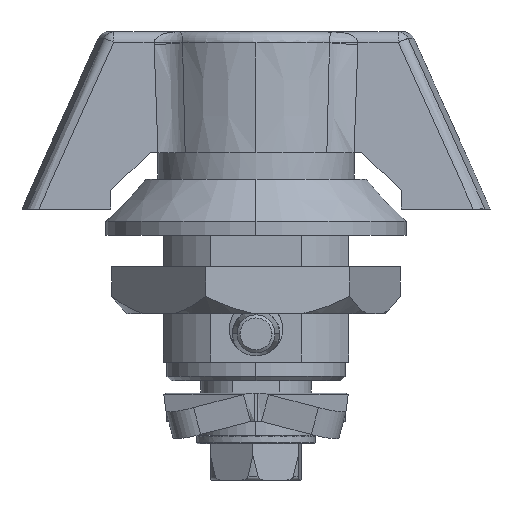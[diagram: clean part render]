
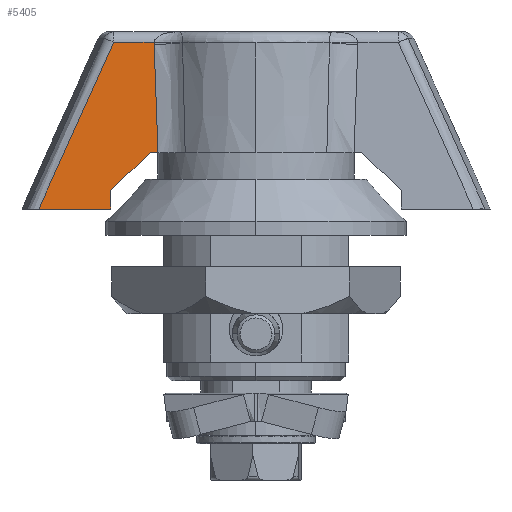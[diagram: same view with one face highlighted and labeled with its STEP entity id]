
A CAD part, left-side view. The second image highlights one B-rep face of the part: STEP entity #5405.
In plain terms, the highlighted planar face has unit normal (-0.999, 0, 0.052) as drawn and (0, -0.999, -0.052) by its records, which use the part's own axes.
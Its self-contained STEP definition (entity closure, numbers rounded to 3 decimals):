
#1468 = CARTESIAN_POINT ( 'NONE',  ( 10.445, -5.988, -4.5 ) ) ;
#1469 = CARTESIAN_POINT ( 'NONE',  ( 10.858, -5.384, -16.036 ) ) ;
#1476 = B_SPLINE_CURVE_WITH_KNOTS ( 'NONE', 3,
 ( #1468, #1517, #1516, #1515 ),
 .UNSPECIFIED., .F., .F.,
 ( 4, 4 ),
 ( 0., 1. ),
 .UNSPECIFIED. ) ;
#1515 = CARTESIAN_POINT ( 'NONE',  ( 10.858, -5.384, -16.036 ) ) ;
#1516 = CARTESIAN_POINT ( 'NONE',  ( 10.726, -5.589, -12.116 ) ) ;
#1517 = CARTESIAN_POINT ( 'NONE',  ( 10.588, -5.791, -8.271 ) ) ;
#1525 = CARTESIAN_POINT ( 'NONE',  ( 10.859, -5.372, -16.263 ) ) ;
#1526 = CARTESIAN_POINT ( 'NONE',  ( 10.861, -5.376, -16.187 ) ) ;
#1527 = CARTESIAN_POINT ( 'NONE',  ( 10.861, -5.38, -16.112 ) ) ;
#1528 = CARTESIAN_POINT ( 'NONE',  ( 10.858, -5.384, -16.036 ) ) ;
#1530 = B_SPLINE_CURVE_WITH_KNOTS ( 'NONE', 3,
 ( #1528, #1527, #1526, #1525 ),
 .UNSPECIFIED., .F., .F.,
 ( 4, 4 ),
 ( 0., 1. ),
 .UNSPECIFIED. ) ;
#1593 = CARTESIAN_POINT ( 'NONE',  ( 10.445, -5.988, -4.5 ) ) ;
#1596 = CARTESIAN_POINT ( 'NONE',  ( 11.256, -5.988, -4.5 ) ) ;
#1626 = CARTESIAN_POINT ( 'NONE',  ( 15.507, -6.198, -0.5 ) ) ;
#1627 = CARTESIAN_POINT ( 'NONE',  ( 15.493, -6.233, 0.168 ) ) ;
#1628 = CARTESIAN_POINT ( 'NONE',  ( 15.479, -6.268, 0.834 ) ) ;
#1629 = CARTESIAN_POINT ( 'NONE',  ( 15.465, -6.303, 1.5 ) ) ;
#1645 =( BOUNDED_CURVE ( )  B_SPLINE_CURVE ( 3, ( #1629, #1628, #1627, #1626 ),
 .UNSPECIFIED., .F., .T. ) 
 B_SPLINE_CURVE_WITH_KNOTS ( ( 4, 4 ),
 ( 4.325, 4.332 ),
 .UNSPECIFIED. ) 
 CURVE ( )  GEOMETRIC_REPRESENTATION_ITEM ( )  RATIONAL_B_SPLINE_CURVE ( ( 1., 1., 1., 1. ) ) 
 REPRESENTATION_ITEM ( '' )  );
#2201 = FACE_OUTER_BOUND ( 'NONE', #5442, .T. ) ;
#3420 = DIRECTION ( 'NONE',  ( -1., 0., 0. ) ) ;
#3433 = VECTOR ( 'NONE', #3420, 1000. ) ;
#3434 = CARTESIAN_POINT ( 'NONE',  ( -16.5, -5.988, -4.5 ) ) ;
#3435 = LINE ( 'NONE', #3434, #3433 ) ;
#5301 = ORIENTED_EDGE ( 'NONE', *, *, #9115, .T. ) ;
#5302 = EDGE_CURVE ( 'NONE', #5351, #5304, #1476, .T. ) ;
#5304 = VERTEX_POINT ( 'NONE', #1469 ) ;
#5321 = EDGE_CURVE ( 'NONE', #5304, #8965, #1530, .T. ) ;
#5351 = VERTEX_POINT ( 'NONE', #1593 ) ;
#5352 = ORIENTED_EDGE ( 'NONE', *, *, #5370, .T. ) ;
#5370 = EDGE_CURVE ( 'NONE', #9372, #20388, #1645, .T. ) ;
#5375 = VERTEX_POINT ( 'NONE', #1596 ) ;
#5376 = EDGE_CURVE ( 'NONE', #20388, #5375, #20878, .T. ) ;
#5377 = ORIENTED_EDGE ( 'NONE', *, *, #5494, .T. ) ;
#5405 = ADVANCED_FACE ( 'NONE', ( #2201 ), #20559, .T. ) ;
#5433 = ORIENTED_EDGE ( 'NONE', *, *, #9164, .T. ) ;
#5442 = EDGE_LOOP ( 'NONE', ( #5301, #5352, #5491, #5377, #5467, #20439, #5433, #20378 ) ) ;
#5467 = ORIENTED_EDGE ( 'NONE', *, *, #5302, .T. ) ;
#5491 = ORIENTED_EDGE ( 'NONE', *, *, #5376, .T. ) ;
#5494 = EDGE_CURVE ( 'NONE', #5375, #5351, #3435, .T. ) ;
#8965 = VERTEX_POINT ( 'NONE', #13970 ) ;
#9000 = EDGE_CURVE ( 'NONE', #9189, #9234, #13578, .T. ) ;
#9115 = EDGE_CURVE ( 'NONE', #9234, #9372, #14941, .T. ) ;
#9164 = EDGE_CURVE ( 'NONE', #8965, #9189, #15120, .T. ) ;
#9189 = VERTEX_POINT ( 'NONE', #15136 ) ;
#9234 = VERTEX_POINT ( 'NONE', #15360 ) ;
#9372 = VERTEX_POINT ( 'NONE', #15919 ) ;
#13578 = B_SPLINE_CURVE_WITH_KNOTS ( 'NONE', 3,
 ( #13939, #14013, #14008, #14006 ),
 .UNSPECIFIED., .F., .F.,
 ( 4, 4 ),
 ( 0., 1. ),
 .UNSPECIFIED. ) ;
#13939 = CARTESIAN_POINT ( 'NONE',  ( 15.16, -5.372, -16.263 ) ) ;
#13970 = CARTESIAN_POINT ( 'NONE',  ( 10.859, -5.372, -16.263 ) ) ;
#14006 = CARTESIAN_POINT ( 'NONE',  ( 23.157, -6.303, 1.5 ) ) ;
#14008 = CARTESIAN_POINT ( 'NONE',  ( 19.944, -5.928, -5.656 ) ) ;
#14013 = CARTESIAN_POINT ( 'NONE',  ( 17.278, -5.618, -11.577 ) ) ;
#14924 = DIRECTION ( 'NONE',  ( -1., 0., 0. ) ) ;
#14925 = VECTOR ( 'NONE', #14924, 1000. ) ;
#14939 = CARTESIAN_POINT ( 'NONE',  ( -16.5, -6.303, 1.5 ) ) ;
#14941 = LINE ( 'NONE', #14939, #14925 ) ;
#15094 = DIRECTION ( 'NONE',  ( 1., 0., 0. ) ) ;
#15095 = VECTOR ( 'NONE', #15094, 1000. ) ;
#15096 = CARTESIAN_POINT ( 'NONE',  ( -16.5, -5.372, -16.263 ) ) ;
#15120 = LINE ( 'NONE', #15096, #15095 ) ;
#15136 = CARTESIAN_POINT ( 'NONE',  ( 15.16, -5.372, -16.263 ) ) ;
#15360 = CARTESIAN_POINT ( 'NONE',  ( 23.157, -6.303, 1.5 ) ) ;
#15919 = CARTESIAN_POINT ( 'NONE',  ( 15.465, -6.303, 1.5 ) ) ;
#18533 = CARTESIAN_POINT ( 'NONE',  ( 15.507, -6.198, -0.5 ) ) ;
#20378 = ORIENTED_EDGE ( 'NONE', *, *, #9000, .T. ) ;
#20388 = VERTEX_POINT ( 'NONE', #18533 ) ;
#20439 = ORIENTED_EDGE ( 'NONE', *, *, #5321, .T. ) ;
#20525 = AXIS2_PLACEMENT_3D ( 'NONE', #20552, #20529, #20527 ) ;
#20527 = DIRECTION ( 'NONE',  ( 0., 0.052, -0.999 ) ) ;
#20529 = DIRECTION ( 'NONE',  ( 0., -0.999, -0.052 ) ) ;
#20552 = CARTESIAN_POINT ( 'NONE',  ( -16.5, -5.312, -17.4 ) ) ;
#20559 = PLANE ( 'NONE',  #20525 ) ;
#20878 = B_SPLINE_CURVE_WITH_KNOTS ( 'NONE', 3,
 ( #20886, #20887, #20890, #20889 ),
 .UNSPECIFIED., .F., .F.,
 ( 4, 4 ),
 ( 0., 0.006 ),
 .UNSPECIFIED. ) ;
#20886 = CARTESIAN_POINT ( 'NONE',  ( 15.507, -6.198, -0.5 ) ) ;
#20887 = CARTESIAN_POINT ( 'NONE',  ( 14.103, -6.128, -1.847 ) ) ;
#20889 = CARTESIAN_POINT ( 'NONE',  ( 11.256, -5.988, -4.5 ) ) ;
#20890 = CARTESIAN_POINT ( 'NONE',  ( 12.69, -6.057, -3.185 ) ) ;
